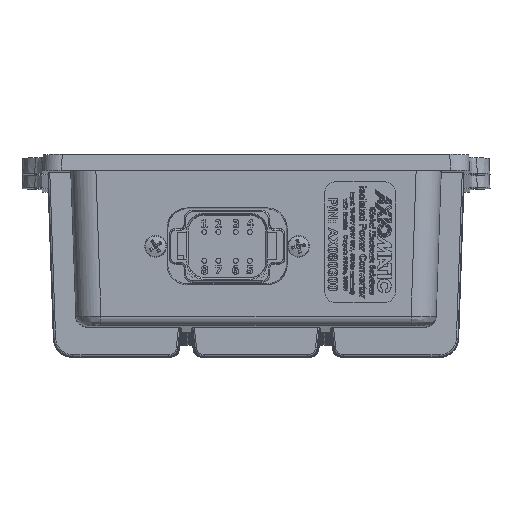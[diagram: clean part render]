
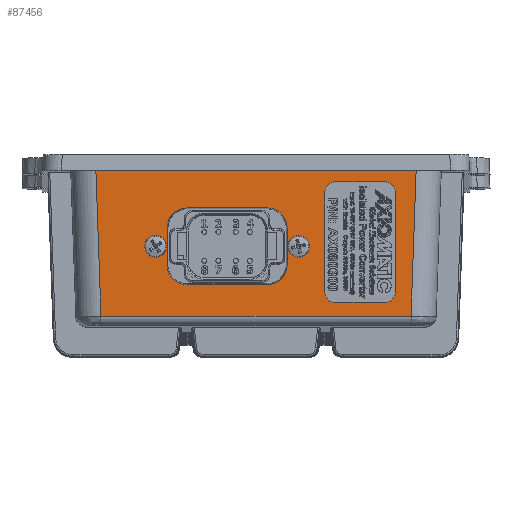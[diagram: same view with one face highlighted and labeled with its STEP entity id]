
A CAD part, top view. The second image highlights one B-rep face of the part: STEP entity #87456.
In plain terms, the highlighted planar face has unit normal (0, 0, 1).
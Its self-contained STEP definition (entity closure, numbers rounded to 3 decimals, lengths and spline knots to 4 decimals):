
#228=ELLIPSE('',#92184,0.2507,0.25);
#229=ELLIPSE('',#92185,0.2507,0.25);
#230=ELLIPSE('',#92186,0.2507,0.25);
#231=ELLIPSE('',#92187,0.2507,0.25);
#5839=LINE('',#140046,#13134);
#5842=LINE('',#140054,#13137);
#5845=LINE('',#140062,#13140);
#5847=LINE('',#140068,#13142);
#6098=LINE('',#141226,#13393);
#6099=LINE('',#141228,#13394);
#6100=LINE('',#141230,#13395);
#6101=LINE('',#141231,#13396);
#6102=LINE('',#141238,#13397);
#6103=LINE('',#141242,#13398);
#6104=LINE('',#141246,#13399);
#6105=LINE('',#141250,#13400);
#13134=VECTOR('',#104512,0.3937);
#13137=VECTOR('',#104521,0.3937);
#13140=VECTOR('',#104530,0.3937);
#13142=VECTOR('',#104538,0.3937);
#13393=VECTOR('',#105275,0.3937);
#13394=VECTOR('',#105276,0.3937);
#13395=VECTOR('',#105277,0.3937);
#13396=VECTOR('',#105278,0.3937);
#13397=VECTOR('',#105283,0.3937);
#13398=VECTOR('',#105286,0.3937);
#13399=VECTOR('',#105289,0.3937);
#13400=VECTOR('',#105292,0.3937);
#22860=PLANE('',#92181);
#23898=FACE_BOUND('',#31745,.T.);
#23899=FACE_BOUND('',#31746,.T.);
#23900=FACE_BOUND('',#31747,.T.);
#23901=FACE_BOUND('',#31748,.T.);
#26236=FACE_OUTER_BOUND('',#31744,.T.);
#31744=EDGE_LOOP('',(#69811,#69812,#69813,#69814));
#31745=EDGE_LOOP('',(#69815,#69816,#69817,#69818,#69819,#69820,#69821,#69822));
#31746=EDGE_LOOP('',(#69823));
#31747=EDGE_LOOP('',(#69824));
#31748=EDGE_LOOP('',(#69825,#69826,#69827,#69828,#69829,#69830,#69831,#69832));
#35187=CIRCLE('',#91928,0.125);
#35188=CIRCLE('',#91931,0.125);
#35189=CIRCLE('',#91934,0.125);
#35190=CIRCLE('',#91937,0.125);
#35253=CIRCLE('',#92182,0.135);
#35254=CIRCLE('',#92183,0.135);
#40665=VERTEX_POINT('',#140038);
#40666=VERTEX_POINT('',#140040);
#40667=VERTEX_POINT('',#140044);
#40668=VERTEX_POINT('',#140048);
#40669=VERTEX_POINT('',#140052);
#40670=VERTEX_POINT('',#140056);
#40671=VERTEX_POINT('',#140060);
#40672=VERTEX_POINT('',#140064);
#40999=VERTEX_POINT('',#141224);
#41000=VERTEX_POINT('',#141225);
#41001=VERTEX_POINT('',#141227);
#41002=VERTEX_POINT('',#141229);
#41003=VERTEX_POINT('',#141232);
#41004=VERTEX_POINT('',#141234);
#41005=VERTEX_POINT('',#141236);
#41006=VERTEX_POINT('',#141237);
#41007=VERTEX_POINT('',#141239);
#41008=VERTEX_POINT('',#141241);
#41009=VERTEX_POINT('',#141243);
#41010=VERTEX_POINT('',#141245);
#41011=VERTEX_POINT('',#141247);
#41012=VERTEX_POINT('',#141249);
#50784=EDGE_CURVE('',#40666,#40665,#35187,.T.);
#50787=EDGE_CURVE('',#40665,#40667,#5839,.T.);
#50789=EDGE_CURVE('',#40667,#40668,#35188,.T.);
#50791=EDGE_CURVE('',#40668,#40669,#5842,.T.);
#50793=EDGE_CURVE('',#40669,#40670,#35189,.T.);
#50795=EDGE_CURVE('',#40670,#40671,#5845,.T.);
#50797=EDGE_CURVE('',#40671,#40672,#35190,.T.);
#50798=EDGE_CURVE('',#40672,#40666,#5847,.T.);
#51215=EDGE_CURVE('',#40999,#41000,#6098,.T.);
#51216=EDGE_CURVE('',#40999,#41001,#6099,.T.);
#51217=EDGE_CURVE('',#41002,#41001,#6100,.T.);
#51218=EDGE_CURVE('',#41000,#41002,#6101,.T.);
#51219=EDGE_CURVE('',#41003,#41003,#35253,.T.);
#51220=EDGE_CURVE('',#41004,#41004,#35254,.T.);
#51221=EDGE_CURVE('',#41005,#41006,#6102,.T.);
#51222=EDGE_CURVE('',#41007,#41006,#228,.T.);
#51223=EDGE_CURVE('',#41007,#41008,#6103,.T.);
#51224=EDGE_CURVE('',#41009,#41008,#229,.T.);
#51225=EDGE_CURVE('',#41009,#41010,#6104,.T.);
#51226=EDGE_CURVE('',#41011,#41010,#230,.T.);
#51227=EDGE_CURVE('',#41011,#41012,#6105,.T.);
#51228=EDGE_CURVE('',#41005,#41012,#231,.T.);
#69811=ORIENTED_EDGE('',*,*,#51215,.F.);
#69812=ORIENTED_EDGE('',*,*,#51216,.T.);
#69813=ORIENTED_EDGE('',*,*,#51217,.F.);
#69814=ORIENTED_EDGE('',*,*,#51218,.F.);
#69815=ORIENTED_EDGE('',*,*,#50784,.T.);
#69816=ORIENTED_EDGE('',*,*,#50787,.T.);
#69817=ORIENTED_EDGE('',*,*,#50789,.T.);
#69818=ORIENTED_EDGE('',*,*,#50791,.T.);
#69819=ORIENTED_EDGE('',*,*,#50793,.T.);
#69820=ORIENTED_EDGE('',*,*,#50795,.T.);
#69821=ORIENTED_EDGE('',*,*,#50797,.T.);
#69822=ORIENTED_EDGE('',*,*,#50798,.T.);
#69823=ORIENTED_EDGE('',*,*,#51219,.T.);
#69824=ORIENTED_EDGE('',*,*,#51220,.T.);
#69825=ORIENTED_EDGE('',*,*,#51221,.T.);
#69826=ORIENTED_EDGE('',*,*,#51222,.F.);
#69827=ORIENTED_EDGE('',*,*,#51223,.T.);
#69828=ORIENTED_EDGE('',*,*,#51224,.F.);
#69829=ORIENTED_EDGE('',*,*,#51225,.T.);
#69830=ORIENTED_EDGE('',*,*,#51226,.F.);
#69831=ORIENTED_EDGE('',*,*,#51227,.T.);
#69832=ORIENTED_EDGE('',*,*,#51228,.F.);
#87456=ADVANCED_FACE('',(#26236,#23898,#23899,#23900,#23901),#22860,.T.);
#91928=AXIS2_PLACEMENT_3D('',#140041,#104506,#104507);
#91931=AXIS2_PLACEMENT_3D('',#140050,#104516,#104517);
#91934=AXIS2_PLACEMENT_3D('',#140058,#104525,#104526);
#91937=AXIS2_PLACEMENT_3D('',#140066,#104534,#104535);
#92181=AXIS2_PLACEMENT_3D('',#141223,#105273,#105274);
#92182=AXIS2_PLACEMENT_3D('',#141233,#105279,#105280);
#92183=AXIS2_PLACEMENT_3D('',#141235,#105281,#105282);
#92184=AXIS2_PLACEMENT_3D('',#141240,#105284,#105285);
#92185=AXIS2_PLACEMENT_3D('',#141244,#105287,#105288);
#92186=AXIS2_PLACEMENT_3D('',#141248,#105290,#105291);
#92187=AXIS2_PLACEMENT_3D('',#141251,#105293,#105294);
#104506=DIRECTION('center_axis',(0.,0.,
-1.));
#104507=DIRECTION('ref_axis',(1.,0.,0.));
#104512=DIRECTION('',(0.,-1.,0.));
#104516=DIRECTION('center_axis',(0.,0.,
-1.));
#104517=DIRECTION('ref_axis',(0.,-1.,0.));
#104521=DIRECTION('',(-1.,0.,0.));
#104525=DIRECTION('center_axis',(0.,0.,
-1.));
#104526=DIRECTION('ref_axis',(-1.,0.,0.));
#104530=DIRECTION('',(0.,1.,0.));
#104534=DIRECTION('center_axis',(0.,0.,
-1.));
#104535=DIRECTION('ref_axis',(0.,1.,0.));
#104538=DIRECTION('',(1.,0.,0.));
#105273=DIRECTION('center_axis',(0.,0.,
1.));
#105274=DIRECTION('ref_axis',(1.,0.,0.));
#105275=DIRECTION('',(-0.035,-0.999,0.));
#105276=DIRECTION('',(-1.,0.,0.));
#105277=DIRECTION('',(-0.035,0.999,0.));
#105278=DIRECTION('',(-1.,0.,0.));
#105279=DIRECTION('center_axis',(0.,0.,
-1.));
#105280=DIRECTION('ref_axis',(0.213,-0.977,0.));
#105281=DIRECTION('center_axis',(0.,0.,
-1.));
#105282=DIRECTION('ref_axis',(0.83,0.557,0.));
#105283=DIRECTION('',(1.,0.,0.));
#105284=DIRECTION('center_axis',(0.,0.,
1.));
#105285=DIRECTION('ref_axis',(0.707,0.707,0.));
#105286=DIRECTION('',(0.,-1.,0.));
#105287=DIRECTION('center_axis',(0.,0.,
1.));
#105288=DIRECTION('ref_axis',(0.707,-0.707,0.));
#105289=DIRECTION('',(-1.,0.,0.));
#105290=DIRECTION('center_axis',(0.,0.,
1.));
#105291=DIRECTION('ref_axis',(-0.707,-0.707,0.));
#105292=DIRECTION('',(0.,1.,0.));
#105293=DIRECTION('center_axis',(0.,0.,
1.));
#105294=DIRECTION('ref_axis',(-0.707,0.707,0.));
#140038=CARTESIAN_POINT('',(1.7321,1.4357,3.5256));
#140040=CARTESIAN_POINT('',(1.6071,1.5607,3.5256));
#140041=CARTESIAN_POINT('Origin',(1.6071,1.4357,3.5256));
#140044=CARTESIAN_POINT('',(1.7321,0.1857,3.5256));
#140046=CARTESIAN_POINT('',(1.7321,0.6526,3.5256));
#140048=CARTESIAN_POINT('',(1.6071,0.0607,3.5256));
#140050=CARTESIAN_POINT('Origin',(1.6071,0.1857,3.5256));
#140052=CARTESIAN_POINT('',(0.9821,0.0607,3.5256));
#140054=CARTESIAN_POINT('',(1.9223,0.0607,3.5256));
#140056=CARTESIAN_POINT('',(0.8571,0.1857,3.5256));
#140058=CARTESIAN_POINT('Origin',(0.9821,0.1857,3.5256));
#140060=CARTESIAN_POINT('',(0.8571,1.4357,3.5256));
#140062=CARTESIAN_POINT('',(0.8571,0.0276,3.5256));
#140064=CARTESIAN_POINT('',(0.9821,1.5607,3.5256));
#140066=CARTESIAN_POINT('Origin',(0.9821,1.4357,3.5256));
#140068=CARTESIAN_POINT('',(1.6098,1.5607,3.5256));
#141223=CARTESIAN_POINT('Origin',(2.2375,-0.1305,3.5256));
#141224=CARTESIAN_POINT('',(1.9925,1.7057,3.5256));
#141225=CARTESIAN_POINT('',(1.9292,-0.1095,3.5256));
#141226=CARTESIAN_POINT('',(1.9243,-0.2494,3.5256));
#141227=CARTESIAN_POINT('',(-1.9925,1.7057,3.5256));
#141228=CARTESIAN_POINT('',(1.1188,1.7057,3.5256));
#141229=CARTESIAN_POINT('',(-1.9292,-0.1095,3.5256));
#141230=CARTESIAN_POINT('',(-1.9261,-0.1977,3.5256));
#141231=CARTESIAN_POINT('',(2.2375,-0.1095,3.5256));
#141232=CARTESIAN_POINT('',(0.5588,0.6269,3.5256));
#141233=CARTESIAN_POINT('Origin',(0.53,0.7588,3.5256));
#141234=CARTESIAN_POINT('',(-1.1379,0.834,3.5256));
#141235=CARTESIAN_POINT('Origin',(-1.25,0.7588,3.5256));
#141236=CARTESIAN_POINT('',(-0.8578,1.2366,3.5256));
#141237=CARTESIAN_POINT('',(0.1378,1.2366,3.5256));
#141238=CARTESIAN_POINT('',(0.57,1.2366,3.5256));
#141239=CARTESIAN_POINT('',(0.3875,0.987,3.5256));
#141240=CARTESIAN_POINT('Origin',(0.1371,0.9863,3.5256));
#141241=CARTESIAN_POINT('',(0.3875,0.5303,3.5256));
#141242=CARTESIAN_POINT('',(0.3875,0.5481,3.5256));
#141243=CARTESIAN_POINT('',(0.1378,0.2806,3.5256));
#141244=CARTESIAN_POINT('Origin',(0.1371,0.531,3.5256));
#141245=CARTESIAN_POINT('',(-0.8578,0.2806,3.5256));
#141246=CARTESIAN_POINT('',(1.3075,0.2806,3.5256));
#141247=CARTESIAN_POINT('',(-1.1075,0.5303,3.5256));
#141248=CARTESIAN_POINT('Origin',(-0.8571,0.531,
3.5256));
#141249=CARTESIAN_POINT('',(-1.1075,0.987,3.5256));
#141250=CARTESIAN_POINT('',(-1.1075,0.0801,3.5256));
#141251=CARTESIAN_POINT('Origin',(-0.8571,0.9863,
3.5256));
